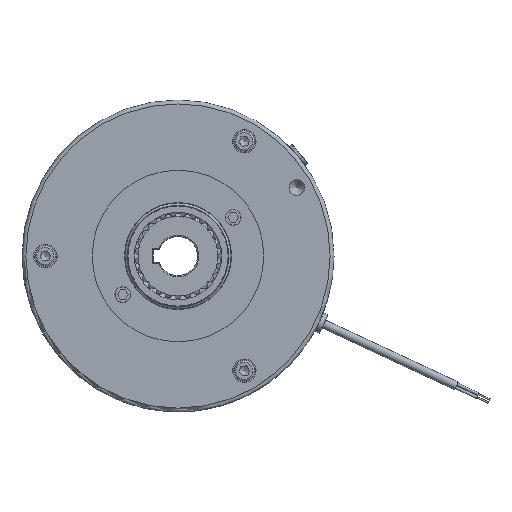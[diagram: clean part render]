
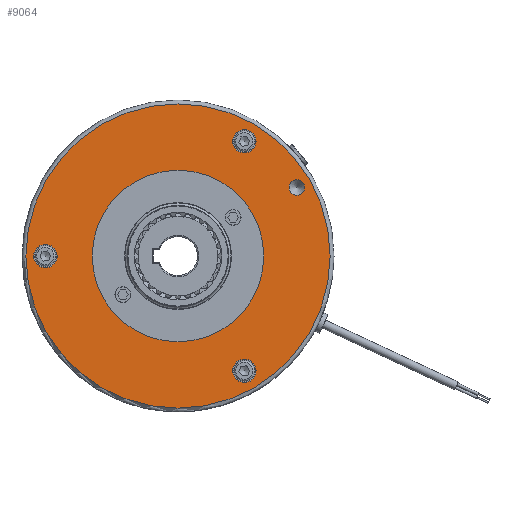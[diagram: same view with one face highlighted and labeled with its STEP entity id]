
A CAD part, left-side view. The second image highlights one B-rep face of the part: STEP entity #9064.
In plain terms, the highlighted planar face has unit normal (-1, 0, 0).
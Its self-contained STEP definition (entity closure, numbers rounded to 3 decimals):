
#436=FACE_BOUND('',#1369,.T.);
#437=FACE_BOUND('',#1370,.T.);
#438=FACE_BOUND('',#1371,.T.);
#439=FACE_BOUND('',#1372,.T.);
#440=FACE_BOUND('',#1373,.T.);
#526=PLANE('',#9908);
#820=FACE_OUTER_BOUND('',#1368,.T.);
#1368=EDGE_LOOP('',(#6782,#6783));
#1369=EDGE_LOOP('',(#6784,#6785));
#1370=EDGE_LOOP('',(#6786,#6787));
#1371=EDGE_LOOP('',(#6788,#6789));
#1372=EDGE_LOOP('',(#6790,#6791));
#1373=EDGE_LOOP('',(#6792,#6793));
#2756=CIRCLE('',#9895,5.);
#2757=CIRCLE('',#9896,5.);
#2763=CIRCLE('',#9906,97.5);
#2764=CIRCLE('',#9907,97.5);
#2765=CIRCLE('',#9909,55.);
#2766=CIRCLE('',#9910,55.);
#2767=CIRCLE('',#9911,7.5);
#2768=CIRCLE('',#9912,7.5);
#2769=CIRCLE('',#9913,7.5);
#2770=CIRCLE('',#9914,7.5);
#2771=CIRCLE('',#9915,7.5);
#2772=CIRCLE('',#9916,7.5);
#3610=VERTEX_POINT('',#15593);
#3611=VERTEX_POINT('',#15594);
#3616=VERTEX_POINT('',#15612);
#3617=VERTEX_POINT('',#15614);
#3618=VERTEX_POINT('',#15618);
#3619=VERTEX_POINT('',#15619);
#3620=VERTEX_POINT('',#15622);
#3621=VERTEX_POINT('',#15623);
#3622=VERTEX_POINT('',#15626);
#3623=VERTEX_POINT('',#15627);
#3624=VERTEX_POINT('',#15630);
#3625=VERTEX_POINT('',#15631);
#4739=EDGE_CURVE('',#3610,#3611,#2756,.T.);
#4740=EDGE_CURVE('',#3611,#3610,#2757,.T.);
#4749=EDGE_CURVE('',#3616,#3617,#2763,.T.);
#4750=EDGE_CURVE('',#3617,#3616,#2764,.T.);
#4751=EDGE_CURVE('',#3618,#3619,#2765,.T.);
#4752=EDGE_CURVE('',#3619,#3618,#2766,.T.);
#4753=EDGE_CURVE('',#3620,#3621,#2767,.T.);
#4754=EDGE_CURVE('',#3621,#3620,#2768,.T.);
#4755=EDGE_CURVE('',#3622,#3623,#2769,.T.);
#4756=EDGE_CURVE('',#3623,#3622,#2770,.T.);
#4757=EDGE_CURVE('',#3624,#3625,#2771,.T.);
#4758=EDGE_CURVE('',#3625,#3624,#2772,.T.);
#6782=ORIENTED_EDGE('',*,*,#4750,.F.);
#6783=ORIENTED_EDGE('',*,*,#4749,.F.);
#6784=ORIENTED_EDGE('',*,*,#4739,.T.);
#6785=ORIENTED_EDGE('',*,*,#4740,.T.);
#6786=ORIENTED_EDGE('',*,*,#4751,.T.);
#6787=ORIENTED_EDGE('',*,*,#4752,.T.);
#6788=ORIENTED_EDGE('',*,*,#4753,.T.);
#6789=ORIENTED_EDGE('',*,*,#4754,.T.);
#6790=ORIENTED_EDGE('',*,*,#4755,.T.);
#6791=ORIENTED_EDGE('',*,*,#4756,.T.);
#6792=ORIENTED_EDGE('',*,*,#4757,.T.);
#6793=ORIENTED_EDGE('',*,*,#4758,.T.);
#9064=ADVANCED_FACE('',(#820,#436,#437,#438,#439,#440),#526,.T.);
#9895=AXIS2_PLACEMENT_3D('',#15595,#11890,#11891);
#9896=AXIS2_PLACEMENT_3D('',#15596,#11892,#11893);
#9906=AXIS2_PLACEMENT_3D('',#15615,#11915,#11916);
#9907=AXIS2_PLACEMENT_3D('',#15616,#11917,#11918);
#9908=AXIS2_PLACEMENT_3D('',#15617,#11919,#11920);
#9909=AXIS2_PLACEMENT_3D('',#15620,#11921,#11922);
#9910=AXIS2_PLACEMENT_3D('',#15621,#11923,#11924);
#9911=AXIS2_PLACEMENT_3D('',#15624,#11925,#11926);
#9912=AXIS2_PLACEMENT_3D('',#15625,#11927,#11928);
#9913=AXIS2_PLACEMENT_3D('',#15628,#11929,#11930);
#9914=AXIS2_PLACEMENT_3D('',#15629,#11931,#11932);
#9915=AXIS2_PLACEMENT_3D('',#15632,#11933,#11934);
#9916=AXIS2_PLACEMENT_3D('',#15633,#11935,#11936);
#11890=DIRECTION('center_axis',(1.,0.,0.));
#11891=DIRECTION('ref_axis',(0.,0.,1.));
#11892=DIRECTION('center_axis',(1.,0.,0.));
#11893=DIRECTION('ref_axis',(0.,0.,1.));
#11915=DIRECTION('center_axis',(1.,0.,0.));
#11916=DIRECTION('ref_axis',(0.,-1.,0.));
#11917=DIRECTION('center_axis',(1.,0.,0.));
#11918=DIRECTION('ref_axis',(0.,-1.,0.));
#11919=DIRECTION('center_axis',(-1.,0.,0.));
#11920=DIRECTION('ref_axis',(0.,0.,1.));
#11921=DIRECTION('center_axis',(1.,0.,0.));
#11922=DIRECTION('ref_axis',(0.,1.,0.));
#11923=DIRECTION('center_axis',(1.,0.,0.));
#11924=DIRECTION('ref_axis',(0.,1.,0.));
#11925=DIRECTION('center_axis',(1.,0.,0.));
#11926=DIRECTION('ref_axis',(0.,0.,1.));
#11927=DIRECTION('center_axis',(1.,0.,0.));
#11928=DIRECTION('ref_axis',(0.,0.,1.));
#11929=DIRECTION('center_axis',(1.,0.,0.));
#11930=DIRECTION('ref_axis',(0.,-0.866,-0.5));
#11931=DIRECTION('center_axis',(1.,0.,0.));
#11932=DIRECTION('ref_axis',(0.,-0.866,-0.5));
#11933=DIRECTION('center_axis',(1.,0.,0.));
#11934=DIRECTION('ref_axis',(0.,0.866,-0.5));
#11935=DIRECTION('center_axis',(1.,0.,0.));
#11936=DIRECTION('ref_axis',(0.,0.866,-0.5));
#15593=CARTESIAN_POINT('',(-72.8,-76.21,49.));
#15594=CARTESIAN_POINT('',(-72.8,-76.21,39.));
#15595=CARTESIAN_POINT('Origin',(-72.8,-76.21,44.));
#15596=CARTESIAN_POINT('Origin',(-72.8,-76.21,44.));
#15612=CARTESIAN_POINT('',(-72.8,0.,97.5));
#15614=CARTESIAN_POINT('',(-72.8,97.5,0.));
#15615=CARTESIAN_POINT('Origin',(-72.8,0.,0.));
#15616=CARTESIAN_POINT('Origin',(-72.8,0.,0.));
#15617=CARTESIAN_POINT('Origin',(-72.8,77.5,0.));
#15618=CARTESIAN_POINT('',(-72.8,55.,0.));
#15619=CARTESIAN_POINT('',(-72.8,-55.,0.));
#15620=CARTESIAN_POINT('Origin',(-72.8,0.,0.));
#15621=CARTESIAN_POINT('Origin',(-72.8,0.,0.));
#15622=CARTESIAN_POINT('',(-72.8,85.,7.5));
#15623=CARTESIAN_POINT('',(-72.8,85.,-7.5));
#15624=CARTESIAN_POINT('Origin',(-72.8,85.,0.));
#15625=CARTESIAN_POINT('Origin',(-72.8,85.,0.));
#15626=CARTESIAN_POINT('',(-72.8,-48.995,69.862));
#15627=CARTESIAN_POINT('',(-72.8,-36.005,77.362));
#15628=CARTESIAN_POINT('Origin',(-72.8,-42.5,73.612));
#15629=CARTESIAN_POINT('Origin',(-72.8,-42.5,73.612));
#15630=CARTESIAN_POINT('',(-72.8,-36.005,-77.362));
#15631=CARTESIAN_POINT('',(-72.8,-48.995,-69.862));
#15632=CARTESIAN_POINT('Origin',(-72.8,-42.5,-73.612));
#15633=CARTESIAN_POINT('Origin',(-72.8,-42.5,-73.612));
